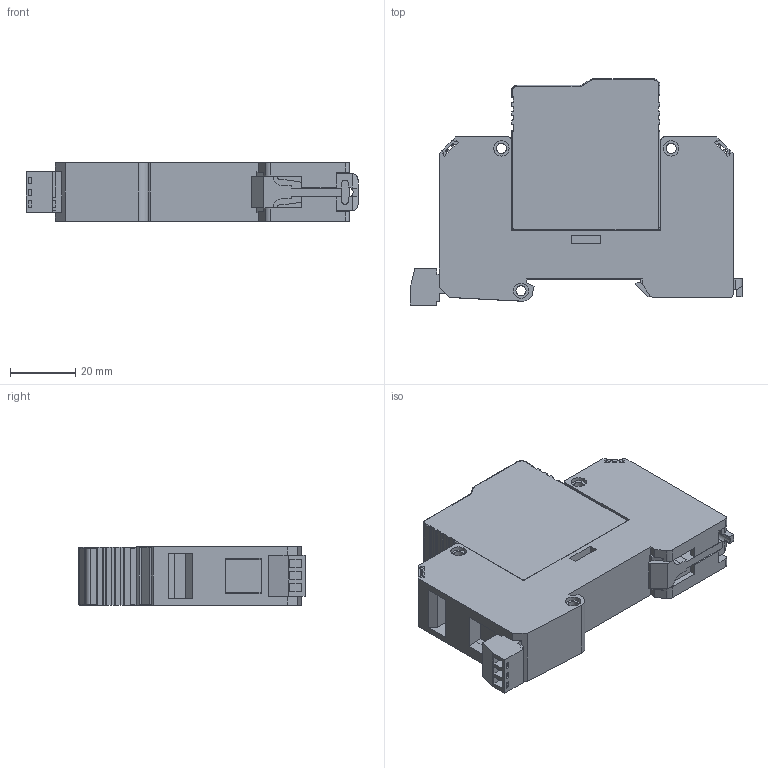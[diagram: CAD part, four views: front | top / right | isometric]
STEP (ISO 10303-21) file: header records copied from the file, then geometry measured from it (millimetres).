
FILE_DESCRIPTION (( 'STEP AP203' ), '1' );
FILE_NAME ('WTH-40_1P.STEP', '2023-05-28T08:13:33', ( 'a' ), ( '' ), 'SwSTEP 2.0', 'SolidWorks 2016', '' );
FILE_SCHEMA (( 'CONFIG_CONTROL_DESIGN' ));
Length unit declared in the file: millimetre
Products named in the file (1): WTH-40_1P
Bounding box: 101.7 x 69.3 x 18 mm (x, y, z)
Volume: 84023.3 mm3; surface area: 23970.9 mm2
Topology: 1 solids, 4 shells, 531 faces, 1448 edges, 936 vertices
Faces by surface type: plane 384, cylinder 123, bspline 24
Full cylindrical faces by diameter (mm): 2.7 x3, 3.1 x3, 4.7 x6, 7.5 x2
Entity records: 17181 total; most frequent: CARTESIAN_POINT 3718, ORIENTED_EDGE 2852, DIRECTION 2632, EDGE_CURVE 1426, VECTOR 1160, LINE 1160, VERTEX_POINT 936, AXIS2_PLACEMENT_3D 736
